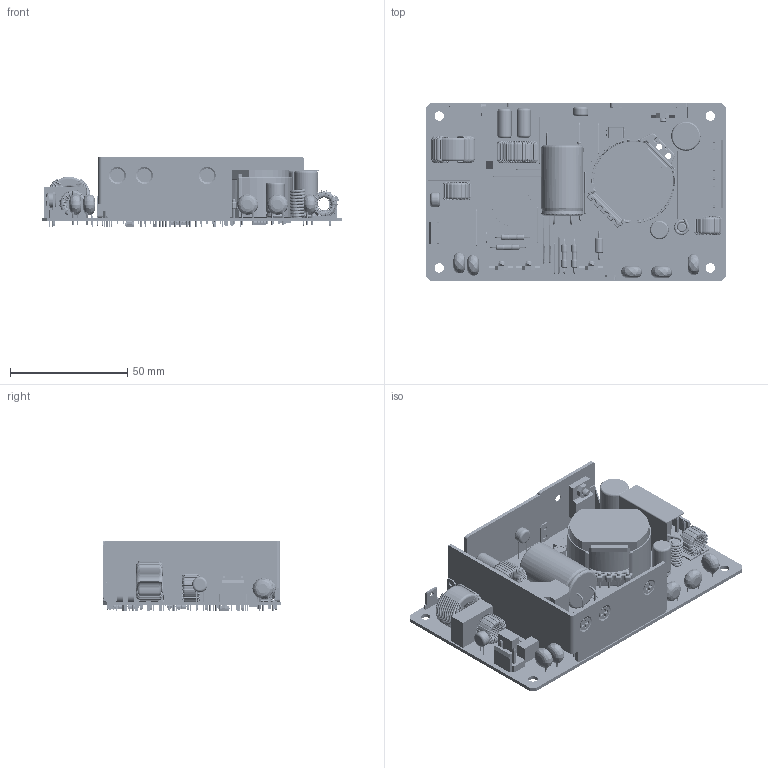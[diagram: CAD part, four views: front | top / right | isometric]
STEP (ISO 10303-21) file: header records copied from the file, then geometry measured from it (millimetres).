
FILE_DESCRIPTION(/* description */ (''),/* implementation_level */ '2;1');
FILE_NAME(/* name */ 'MDS-100APS.stp',/* time_stamp */ '2014-02-25T11:07:18+08:00',/* author */ (''),/* organization */ (''),/* preprocessor_version */ 'ST-DEVELOPER v14',/* originating_system */ 'SIEMENS PLM Software NX 8.0',/* authorisation */ '');
FILE_SCHEMA (('CONFIG_CONTROL_DESIGN'));
Products named in the file (52): PJ3316-BOBBIN_2; PJ3316-CORE_2; 3174526001_48; HSK1; HSK2; PIN1; PIN2; PWB; TR; C104; C105; C107; C1_AF0; Q1; BD1_1_AF0; L1; FL2; FL1; C2; FL101; B2P3-VH_LF_SN; B8P-VH_LF_SN; L101; INSULATOR; NTC32; NTC32_AF0; 3105320100-L8; NUT; C31; IC36_AF0; R8_AF0; R8_AF1; R8_AF2; R8_AF3; D1_AF0; J2; J5; J8; J7; J12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
Assembly tree (79 placements, depth 4):
  MDS-100APS_stp
    CY2  x5
    IC101  x2
    D31
    R103
    IC31
    D3
    R9
    J12  x2
    J7  x3
    J8  x3
    J5  x4
    J2
    D1_AF0
    R8_AF3
    R8_AF2
    R8_AF1
    R8_AF0
    IC36_AF0
    C31
    NUT  x4
    3105320100-L8  x4
    NTC32_AF0
    NTC32
    INSULATOR
    L101
    B8P-VH_LF_SN
    B2P3-VH_LF_SN
    FL101
    C2  x2
    FL1
    FL2
    L1
    BD1_1_AF0
    Q1  x4
    C1_AF0
    C107
    C105  x2
    C104
    HSK2_ASM
      PIN2
      PIN1
      HSK2
    HSK1_ASM
      PIN1  x3
      HSK1
    TRA_ASM
      2870353500_ASM_1_ASM
        3174526001_48
        PJ3316-CORE_2  x2
        PJ3316-BOBBIN_2
    TR
    PWB
Bounding box: 128 x 76.2 x 30.1 mm (x, y, z)
Volume: 76790.4 mm3; surface area: 77215.4 mm2
Topology: 112 solids, 113 shells, 5727 faces, 13137 edges, 7428 vertices
Faces by surface type: cylinder 2331, torus 1567, plane 1489, bspline 170, sphere 96, cone 74
Entity records: 167692 total; most frequent: CARTESIAN_POINT 50254, DIRECTION 25158, ORIENTED_EDGE 22318, EDGE_CURVE 11159, AXIS2_PLACEMENT_3D 10389, VERTEX_POINT 6268, CIRCLE 5420, EDGE_LOOP 5089
